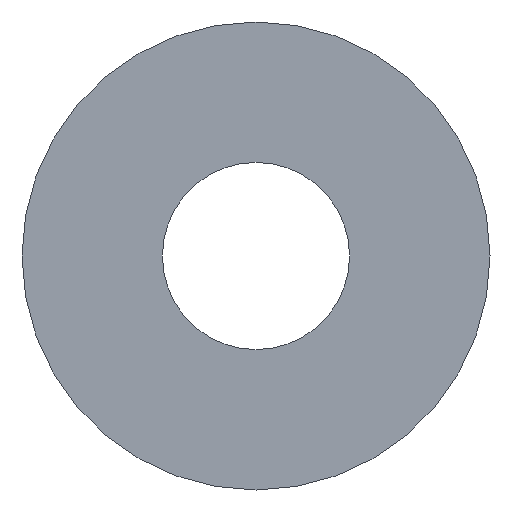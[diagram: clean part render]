
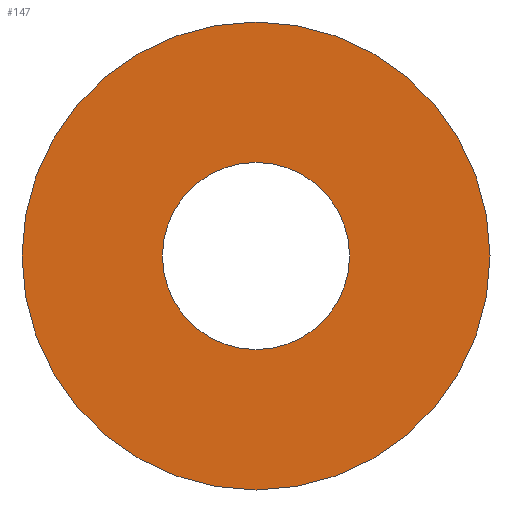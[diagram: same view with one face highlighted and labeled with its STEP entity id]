
A CAD part, front view. The second image highlights one B-rep face of the part: STEP entity #147.
In plain terms, the highlighted planar face has unit normal (0, -1, 0).
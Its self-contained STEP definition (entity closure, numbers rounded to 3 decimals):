
#5 = EDGE_LOOP ( 'NONE', ( #186, #23 ) ) ;
#11 = VERTEX_POINT ( 'NONE', #68 ) ;
#15 = CARTESIAN_POINT ( 'NONE',  ( 0., 0., 0. ) ) ;
#23 = ORIENTED_EDGE ( 'NONE', *, *, #120, .T. ) ;
#32 = FACE_OUTER_BOUND ( 'NONE', #161, .T. ) ;
#38 = VERTEX_POINT ( 'NONE', #42 ) ;
#42 = CARTESIAN_POINT ( 'NONE',  ( 0., 0., 20. ) ) ;
#47 = CARTESIAN_POINT ( 'NONE',  ( 0., 0., -8. ) ) ;
#54 = EDGE_CURVE ( 'NONE', #130, #194, #55, .T. ) ;
#55 = CIRCLE ( 'NONE', #164, 8. ) ;
#61 = CARTESIAN_POINT ( 'NONE',  ( 0., 0., 0. ) ) ;
#65 = DIRECTION ( 'NONE',  ( 0., 0., 1. ) ) ;
#68 = CARTESIAN_POINT ( 'NONE',  ( 0., 0., -20. ) ) ;
#71 = DIRECTION ( 'NONE',  ( 0., 1., 0. ) ) ;
#81 = AXIS2_PLACEMENT_3D ( 'NONE', #135, #85, #116 ) ;
#82 = CARTESIAN_POINT ( 'NONE',  ( 0., 0., 0. ) ) ;
#85 = DIRECTION ( 'NONE',  ( 0., 1., 0. ) ) ;
#88 = PLANE ( 'NONE',  #132 ) ;
#91 = EDGE_CURVE ( 'NONE', #38, #11, #137, .T. ) ;
#103 = DIRECTION ( 'NONE',  ( 0., 1., 0. ) ) ;
#109 = ORIENTED_EDGE ( 'NONE', *, *, #91, .F. ) ;
#115 = DIRECTION ( 'NONE',  ( 0., 0., 1. ) ) ;
#116 = DIRECTION ( 'NONE',  ( 0., 0., 1. ) ) ;
#117 = AXIS2_PLACEMENT_3D ( 'NONE', #181, #71, #154 ) ;
#120 = EDGE_CURVE ( 'NONE', #194, #130, #191, .T. ) ;
#130 = VERTEX_POINT ( 'NONE', #47 ) ;
#132 = AXIS2_PLACEMENT_3D ( 'NONE', #15, #138, #115 ) ;
#135 = CARTESIAN_POINT ( 'NONE',  ( 0., 0., 0. ) ) ;
#137 = CIRCLE ( 'NONE', #81, 20. ) ;
#138 = DIRECTION ( 'NONE',  ( 0., 1., 0. ) ) ;
#142 = AXIS2_PLACEMENT_3D ( 'NONE', #61, #103, #65 ) ;
#143 = EDGE_CURVE ( 'NONE', #11, #38, #166, .T. ) ;
#147 = ADVANCED_FACE ( 'NONE', ( #32, #168 ), #88, .F. ) ;
#149 = DIRECTION ( 'NONE',  ( 0., 1., 0. ) ) ;
#154 = DIRECTION ( 'NONE',  ( 0., 0., 1. ) ) ;
#161 = EDGE_LOOP ( 'NONE', ( #162, #109 ) ) ;
#162 = ORIENTED_EDGE ( 'NONE', *, *, #143, .F. ) ;
#164 = AXIS2_PLACEMENT_3D ( 'NONE', #82, #149, #196 ) ;
#166 = CIRCLE ( 'NONE', #142, 20. ) ;
#168 = FACE_BOUND ( 'NONE', #5, .T. ) ;
#181 = CARTESIAN_POINT ( 'NONE',  ( 0., 0., 0. ) ) ;
#186 = ORIENTED_EDGE ( 'NONE', *, *, #54, .T. ) ;
#187 = CARTESIAN_POINT ( 'NONE',  ( 0., 0., 8. ) ) ;
#191 = CIRCLE ( 'NONE', #117, 8. ) ;
#194 = VERTEX_POINT ( 'NONE', #187 ) ;
#196 = DIRECTION ( 'NONE',  ( 0., 0., 1. ) ) ;
